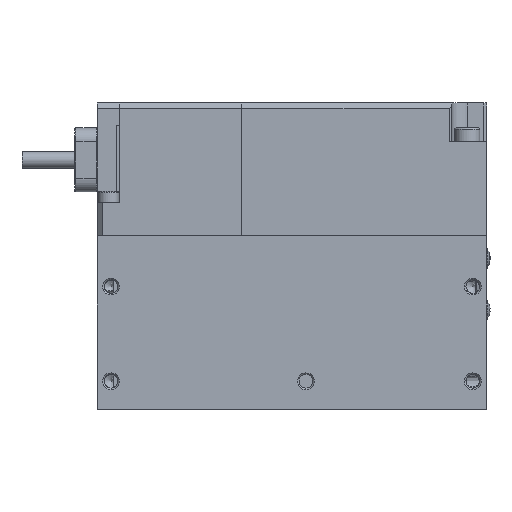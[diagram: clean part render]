
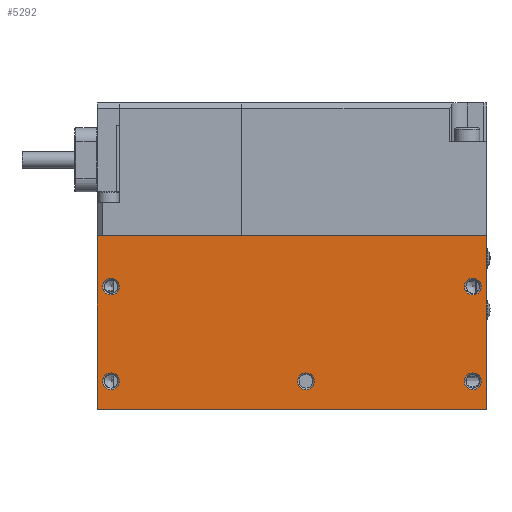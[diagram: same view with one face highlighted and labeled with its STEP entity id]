
A CAD part, left-side view. The second image highlights one B-rep face of the part: STEP entity #5292.
In plain terms, the highlighted planar face has unit normal (-1, 0, 0).
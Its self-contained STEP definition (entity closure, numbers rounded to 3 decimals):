
#1041=CARTESIAN_POINT('',(-25.,70.0,31.1));
#1042=VERTEX_POINT('',#1041);
#1049=CARTESIAN_POINT('',(-25.0,0.,31.1));
#1050=VERTEX_POINT('',#1049);
#1051=CARTESIAN_POINT('',(-25.0,0.,31.1));
#1052=DIRECTION('',(0.0,1.0,0.0));
#1053=VECTOR('',#1052,70.0);
#1054=LINE('',#1051,#1053);
#1055=EDGE_CURVE('',#1050,#1042,#1054,.T.);
#1388=CARTESIAN_POINT('',(-25.,67.5,23.5));
#1389=VERTEX_POINT('',#1388);
#1390=CARTESIAN_POINT('',(-25.,67.5,22.0));
#1391=DIRECTION('',(1.0,0.0,0.0));
#1392=DIRECTION('',(0.0,0.0,1.0));
#1393=AXIS2_PLACEMENT_3D('',#1390,#1391,#1392);
#1394=CIRCLE('',#1393,1.5);
#1395=EDGE_CURVE('',#1389,#1389,#1394,.T.);
#1551=CARTESIAN_POINT('',(-25.0,2.5,23.5));
#1552=VERTEX_POINT('',#1551);
#1553=CARTESIAN_POINT('',(-25.0,2.5,22.0));
#1554=DIRECTION('',(1.0,0.0,0.0));
#1555=DIRECTION('',(0.0,0.0,1.0));
#1556=AXIS2_PLACEMENT_3D('',#1553,#1554,#1555);
#1557=CIRCLE('',#1556,1.5);
#1558=EDGE_CURVE('',#1552,#1552,#1557,.T.);
#1743=CARTESIAN_POINT('',(-25.,67.5,6.5));
#1744=VERTEX_POINT('',#1743);
#1745=CARTESIAN_POINT('',(-25.,67.5,5.0));
#1746=DIRECTION('',(1.0,0.0,0.0));
#1747=DIRECTION('',(0.0,0.0,1.0));
#1748=AXIS2_PLACEMENT_3D('',#1745,#1746,#1747);
#1749=CIRCLE('',#1748,1.5);
#1750=EDGE_CURVE('',#1744,#1744,#1749,.T.);
#1991=CARTESIAN_POINT('',(-25.,32.5,6.5));
#1992=VERTEX_POINT('',#1991);
#1993=CARTESIAN_POINT('',(-25.,32.5,5.0));
#1994=DIRECTION('',(1.0,0.0,0.0));
#1995=DIRECTION('',(0.0,0.0,1.0));
#1996=AXIS2_PLACEMENT_3D('',#1993,#1994,#1995);
#1997=CIRCLE('',#1996,1.5);
#1998=EDGE_CURVE('',#1992,#1992,#1997,.T.);
#2321=CARTESIAN_POINT('',(-25.0,2.5,6.5));
#2322=VERTEX_POINT('',#2321);
#2323=CARTESIAN_POINT('',(-25.0,2.5,5.0));
#2324=DIRECTION('',(1.0,0.0,0.0));
#2325=DIRECTION('',(0.0,0.0,1.0));
#2326=AXIS2_PLACEMENT_3D('',#2323,#2324,#2325);
#2327=CIRCLE('',#2326,1.5);
#2328=EDGE_CURVE('',#2322,#2322,#2327,.T.);
#2855=CARTESIAN_POINT('',(-25.,70.0,0.0));
#2856=VERTEX_POINT('',#2855);
#2863=CARTESIAN_POINT('',(-25.,70.0,0.0));
#2864=DIRECTION('',(0.0,0.0,1.0));
#2865=VECTOR('',#2864,31.1);
#2866=LINE('',#2863,#2865);
#2867=EDGE_CURVE('',#2856,#1042,#2866,.T.);
#2995=CARTESIAN_POINT('',(-25.0,0.,0.0));
#2996=VERTEX_POINT('',#2995);
#2997=CARTESIAN_POINT('',(-25.0,0.,0.0));
#2998=DIRECTION('',(0.0,0.0,1.0));
#2999=VECTOR('',#2998,31.1);
#3000=LINE('',#2997,#2999);
#3001=EDGE_CURVE('',#2996,#1050,#3000,.T.);
#3876=CARTESIAN_POINT('',(-25.0,0.,0.0));
#3877=DIRECTION('',(0.0,1.0,0.0));
#3878=VECTOR('',#3877,70.0);
#3879=LINE('',#3876,#3878);
#3880=EDGE_CURVE('',#2996,#2856,#3879,.T.);
#5266=CARTESIAN_POINT('',(-25.0,0.,0.0));
#5267=DIRECTION('',(-1.0,0.0,0.0));
#5268=DIRECTION('',(0.0,0.0,1.0));
#5269=AXIS2_PLACEMENT_3D('',#5266,#5267,#5268);
#5270=PLANE('',#5269);
#5271=ORIENTED_EDGE('',*,*,#1055,.T.);
#5272=ORIENTED_EDGE('',*,*,#2867,.F.);
#5273=ORIENTED_EDGE('',*,*,#3880,.F.);
#5274=ORIENTED_EDGE('',*,*,#3001,.T.);
#5275=EDGE_LOOP('',(#5271,#5272,#5273,#5274));
#5276=FACE_OUTER_BOUND('',#5275,.T.);
#5277=ORIENTED_EDGE('',*,*,#1395,.T.);
#5278=EDGE_LOOP('',(#5277));
#5279=FACE_BOUND('',#5278,.T.);
#5280=ORIENTED_EDGE('',*,*,#1558,.T.);
#5281=EDGE_LOOP('',(#5280));
#5282=FACE_BOUND('',#5281,.T.);
#5283=ORIENTED_EDGE('',*,*,#1750,.T.);
#5284=EDGE_LOOP('',(#5283));
#5285=FACE_BOUND('',#5284,.T.);
#5286=ORIENTED_EDGE('',*,*,#1998,.T.);
#5287=EDGE_LOOP('',(#5286));
#5288=FACE_BOUND('',#5287,.T.);
#5289=ORIENTED_EDGE('',*,*,#2328,.T.);
#5290=EDGE_LOOP('',(#5289));
#5291=FACE_BOUND('',#5290,.T.);
#5292=ADVANCED_FACE('',(#5276,#5279,#5282,#5285,#5288,#5291),#5270,.T.);
